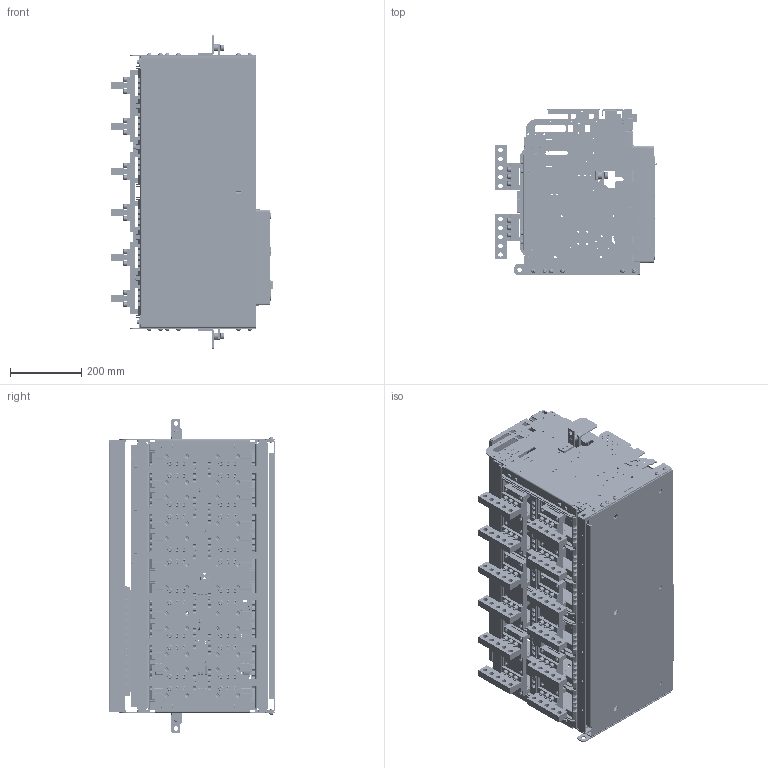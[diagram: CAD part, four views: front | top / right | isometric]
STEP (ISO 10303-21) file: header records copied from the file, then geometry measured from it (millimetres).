
FILE_DESCRIPTION((''),'2;1');
FILE_NAME('HG_24_D403V_ASM_ASM','2019-03-27T',('HHI'),(''),'PRO/ENGINEER BY PARAMETRIC TECHNOLOGY CORPORATION, 2012453','PRO/ENGINEER BY PARAMETRIC TECHNOLOGY CORPORATION, 2012453','');
FILE_SCHEMA(('CONFIG_CONTROL_DESIGN'));
Products named in the file (57): PRT0428; ASM0114_ASM; PRT0429; PRT0430; PRT0431; ASM0115_ASM; PRT0432; PRT0433; ASM0117_ASM; ASM0116_ASM; PRT0434; PRT0435; ASM0118_ASM; PRT0436; PRT0437; ASM0119_ASM; PRT0438; 4AT-06870_2; ASM0120_ASM; PRT0439; PRT0440; 3AT-05057_2; 3AT-05290_ASM_2_ASM; 3AT-05058_2; 3AT-05291_ASM_2_ASM; 3AT-05063S01_1; PRT0441; PRT0442; PRT0443; PRT0444; PRT0445; PRT0446; ASM0121_ASM; PRT0447; PRT0448; FIX_BLOCK_CRADLE_6; BOLT_5; ASM0122_ASM; PRT0449; PRT0451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
Assembly tree (223 placements, depth 6):
  HG_24_D403V_ASM_ASM
    D403V_ASM_2_ASM
      ASM0114_ASM
        PRT0428
      PRT0429
      PRT0430  x12
      ASM0115_ASM
        PRT0431
      ASM0116_ASM
        PRT0432
        ASM0117_ASM
          PRT0433
      ASM0118_ASM
        PRT0434
        PRT0435  x8
      ASM0119_ASM  x2
        PRT0436
        PRT0437
      ASM0120_ASM
        PRT0438
        4AT-06870_2  x6
      PRT0439  x8
      PRT0440  x24
      3AT-05290_ASM_2_ASM  x4
        3AT-05057_2
      3AT-05291_ASM_2_ASM  x2
        3AT-05058_2
      3AT-05063S01_1  x12
      PRT0441  x72
      PRT0442
      ASM0121_ASM
        PRT0443
        PRT0444
        PRT0445
        PRT0446
      ASM0122_ASM
        PRT0447
        PRT0448
        FIX_BLOCK_CRADLE_6
        BOLT_5
      ASM0123_ASM
        ASM0124_ASM
          PRT0449
          ASM0125_ASM
            PRT0451
            PRT0452
            PRT0453
            PRT0454
          ASM0126_ASM
            PRT0455
            PRT0456
            PRT0457
          PRT0460
        PRT0461
    HG_FRONT_COVER_40
    4AT-06477S03
    4AT-06477S04
Bounding box: 453.03 x 466.35 x 878.2 mm (x, y, z)
Volume: 11847384.8 mm3; surface area: 6007749.1 mm2
Topology: 235 solids, 384 shells, 22991 faces, 64546 edges, 41725 vertices
Faces by surface type: plane 15554, cylinder 5458, cone 916, torus 517, sphere 234, bspline 171, extrusion 141
Entity records: 512512 total; most frequent: CARTESIAN_POINT 98506, ORIENTED_EDGE 88510, DIRECTION 81910, EDGE_CURVE 44457, VECTOR 36584, LINE 36443, VERTEX_POINT 29046, AXIS2_PLACEMENT_3D 22663
